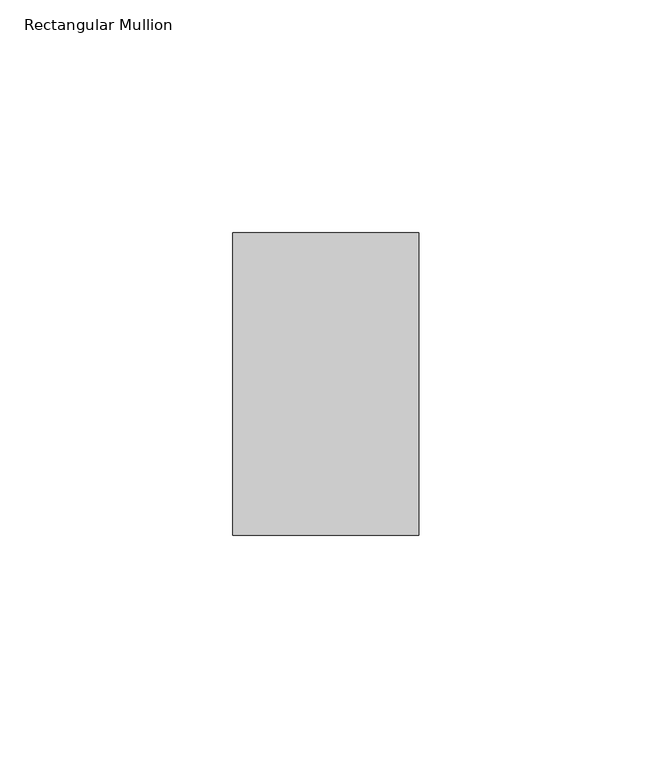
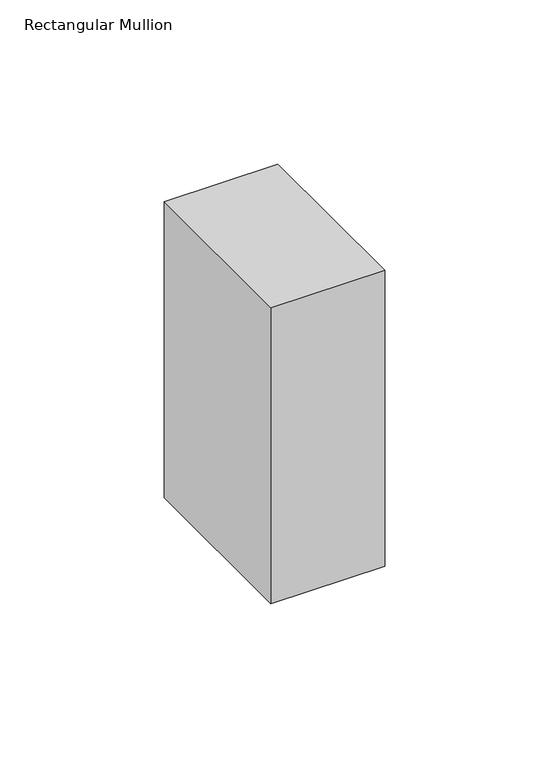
"""IFC4 building model written with IfcOpenShell, lengths in millimetres: member geometry, Rectangular Mullion : Batten_Timber_Modinex_Austratus_Grid_Fascia_40x65_AlaskanYellowCedar."""

import ifcopenshell
import ifcopenshell.guid

model = None  # the IFC model being written
_history = None  # IfcOwnerHistory: only IFC2X3 demands one
_inside = {}  # id of a spatial element -> (the spatial element, [elements in it])
_under = {}  # id of a project, library or spatial element -> (it, [spatial elements below it])
_declared = {}  # id of a project -> (the project, [libraries it declares])
_typed = {}  # id of a type object -> (the type object, [elements of that type])
_made_of = {}  # id of a material, layer set ... -> (it, [elements and type objects made of it])


def new_model(schema):
    """Start an empty IFC model of exactly this schema.

    Asked for "IFC4X3", IfcOpenShell would pick the latest addendum, in which some entities
    have other attributes; the version numbers below select the first issue.
    IFC2X3 requires an IfcOwnerHistory on every rooted entity: one is made here for all.
    """
    global model, _history
    if schema == "IFC4X3":
        model = ifcopenshell.file(schema_version=(4, 3, 0, 0))
    else:
        model = ifcopenshell.file(schema=schema)
    _inside.clear()
    _under.clear()
    _declared.clear()
    _typed.clear()
    _made_of.clear()
    _history = None
    if model.schema == "IFC2X3":
        org = make("IfcOrganization", Name="unknown")
        user = make(
            "IfcPersonAndOrganization",
            ThePerson=make("IfcPerson", FamilyName="unknown"),
            TheOrganization=org,
        )
        app = make(
            "IfcApplication",
            ApplicationDeveloper=org,
            Version="unknown",
            ApplicationFullName="unknown",
            ApplicationIdentifier="unknown",
        )
        _history = make(
            "IfcOwnerHistory",
            OwningUser=user,
            OwningApplication=app,
            ChangeAction="ADDED",
            CreationDate=0,
        )
    return model


def make(cls, **values):
    """One entity of the class cls with the attributes given. An attribute that is None is left unset."""
    return model.create_entity(
        cls, **{name: value for name, value in values.items() if value is not None}
    )


def rooted(cls, **values):
    """An entity with a GlobalId (a new one), such as an element, a storey or a relation."""
    return make(cls, GlobalId=ifcopenshell.guid.new(), OwnerHistory=_history, **values)


def si_unit(unit_type, name, prefix=None):
    """IfcSIUnit, for example si_unit("LENGTHUNIT", "METRE", prefix="MILLI")."""
    return make("IfcSIUnit", UnitType=unit_type, Prefix=prefix, Name=name)


def assignment(units):
    """IfcUnitAssignment: the units of a project."""
    return None if units is None else make("IfcUnitAssignment", Units=units)


def point(xyz):
    """IfcCartesianPoint."""
    return None if xyz is None else make("IfcCartesianPoint", Coordinates=xyz)


def direction(xyz):
    """IfcDirection."""
    return None if xyz is None else make("IfcDirection", DirectionRatios=xyz)


def frame(location, z_axis=None, x_axis=None):
    """IfcAxis2Placement3D, a coordinate frame: its origin and axes. An axis left out is left unset."""
    return make(
        "IfcAxis2Placement3D",
        Location=point(location),
        Axis=direction(z_axis),
        RefDirection=direction(x_axis),
    )


def origin():
    """The frame at (0, 0, 0) with its axes left unset."""
    return frame((0.0, 0.0, 0.0))


def place(relative_to, where):
    """IfcLocalPlacement: puts the frame where relative to a parent placement (None: the world)."""
    return make(
        "IfcLocalPlacement", PlacementRelTo=relative_to, RelativePlacement=where
    )


def context(
    kind, dimensions, precision=None, world=None, true_north=None, identifier=None
):
    """IfcGeometricRepresentationContext, for example the 3D "Model" context."""
    return make(
        "IfcGeometricRepresentationContext",
        ContextIdentifier=identifier,
        ContextType=kind,
        CoordinateSpaceDimension=dimensions,
        Precision=precision,
        WorldCoordinateSystem=world,
        TrueNorth=true_north,
    )


def project(units=None, contexts=None):
    """IfcProject with its units and contexts."""
    return rooted(
        "IfcProject",
        Name="project",
        RepresentationContexts=contexts,
        UnitsInContext=assignment(units),
    )


def spatial(cls, under=None, at=None, **own):
    """A site, building, storey or space (cls), placed at a placement, below another one or the project."""
    s = rooted(cls, ObjectPlacement=at, **own)
    if under is not None:
        _under.setdefault(under.id(), (under, []))[1].append(s)
    return s


def polyline(points):
    """IfcPolyline through the points."""
    return make("IfcPolyline", Points=[point(p) for p in points])


def outline(outer, holes=None, kind="AREA"):
    """IfcArbitraryClosedProfileDef: a profile drawn as a closed curve; with holes, ...WithVoids."""
    if holes is None:
        return make("IfcArbitraryClosedProfileDef", ProfileType=kind, OuterCurve=outer)
    return make(
        "IfcArbitraryProfileDefWithVoids",
        ProfileType=kind,
        OuterCurve=outer,
        InnerCurves=holes,
    )


def extrude(swept, where, along, depth):
    """IfcExtrudedAreaSolid: the profile swept, set in the frame where, extruded along a direction by depth."""
    return make(
        "IfcExtrudedAreaSolid",
        SweptArea=swept,
        Position=where,
        ExtrudedDirection=direction(along),
        Depth=depth,
    )


def shape(context_of_items, identifier, shape_type, items):
    """IfcShapeRepresentation: the items that make up one representation, for example the "Body"."""
    return make(
        "IfcShapeRepresentation",
        ContextOfItems=context_of_items,
        RepresentationIdentifier=identifier,
        RepresentationType=shape_type,
        Items=items,
    )


def source(mapping_origin, context_of_items, identifier, shape_type, items):
    """IfcRepresentationMap: a shape defined once, which mapped items show again and again."""
    return make(
        "IfcRepresentationMap",
        MappingOrigin=mapping_origin,
        MappedRepresentation=shape(context_of_items, identifier, shape_type, items),
    )


def transform(
    local_origin,
    x_axis=None,
    y_axis=None,
    z_axis=None,
    scale=None,
    scale2=None,
    scale3=None,
    uniform=True,
):
    """IfcCartesianTransformationOperator3D, or its non-uniform kind. x_axis, y_axis, z_axis: its Axis1, 2, 3."""
    if uniform:
        return make(
            "IfcCartesianTransformationOperator3D",
            Axis1=direction(x_axis),
            Axis2=direction(y_axis),
            LocalOrigin=point(local_origin),
            Scale=scale,
            Axis3=direction(z_axis),
        )
    return make(
        "IfcCartesianTransformationOperator3DnonUniform",
        Axis1=direction(x_axis),
        Axis2=direction(y_axis),
        LocalOrigin=point(local_origin),
        Scale=scale,
        Axis3=direction(z_axis),
        Scale2=scale2,
        Scale3=scale3,
    )


def mapped(mapping_source, mapping_target):
    """IfcMappedItem: shows the shape of a source again, moved by a transform."""
    return make(
        "IfcMappedItem", MappingSource=mapping_source, MappingTarget=mapping_target
    )


def made_of(thing, what):
    """Note that an element or type object is made of a material, layer set ...; save() writes the relation."""
    if what is not None:
        _made_of.setdefault(what.id(), (what, []))[1].append(thing)
    return thing


def element(
    cls,
    number,
    at=None,
    inside=None,
    cuts=None,
    type_object=None,
    material=None,
    context=None,
    identifier="Body",
    shape_type=None,
    held_by="IfcProductDefinitionShape",
    body=None,
    shapes=None,
    **own,
):
    """One element of the class cls, such as IfcWall. Its Tag is "e" and its number.

    at: its placement. inside: the storey or other place that contains it. cuts: it is an
    opening in that element (IfcRelVoidsElement). A single representation is given by context,
    identifier, shape_type and body (its items); several are given by shapes. held_by: the class
    of the entity that holds the representations. save() writes the other relations.
    """
    e = rooted(cls, Tag="e%d" % number, ObjectPlacement=at, **own)
    if body is not None:
        shapes = [shape(context, identifier, shape_type, body)]
    if shapes is not None:
        e.Representation = make(held_by, Representations=shapes)
    if inside is not None:
        _inside.setdefault(inside.id(), (inside, []))[1].append(e)
    if cuts is not None:
        rooted(
            "IfcRelVoidsElement", RelatingBuildingElement=cuts, RelatedOpeningElement=e
        )
    if type_object is not None:
        _typed.setdefault(type_object.id(), (type_object, []))[1].append(e)
    return made_of(e, material)


def aggregate(whole, parts):
    """IfcRelAggregates: a whole, such as a stair, and the parts it consists of."""
    return rooted("IfcRelAggregates", RelatingObject=whole, RelatedObjects=parts)


def save(model, path):
    """Write the relations noted so far, then the file.

    IfcRelAggregates (storeys below a building ...), IfcRelContainedInSpatialStructure (elements
    in a storey), IfcRelDefinesByType, IfcRelAssociatesMaterial and IfcRelDeclares: one each for
    every whole, place, type object, material and project.
    """
    for whole, parts in _under.values():
        aggregate(whole, parts)
    for where, things in _inside.values():
        rooted(
            "IfcRelContainedInSpatialStructure",
            RelatedElements=things,
            RelatingStructure=where,
        )
    for kind, things in _typed.values():
        rooted("IfcRelDefinesByType", RelatedObjects=things, RelatingType=kind)
    for what, things in _made_of.values():
        rooted("IfcRelAssociatesMaterial", RelatedObjects=things, RelatingMaterial=what)
    for by, libraries in _declared.values():
        rooted("IfcRelDeclares", RelatingContext=by, RelatedDefinitions=libraries)
    model.write(path)


def rectangular_mullion_d5b82d3d(model_context):
    return source(origin(), model_context, "Body", "SweptSolid", [
        extrude(outline(polyline([(0.0, 65.0), (0.0, 0.0), (-40.0, 0.0), (-40.0, 65.0), (0.0, 65.0)])), frame((0.0, 0.0, -110.0), z_axis=(0.0, 0.0, 1.0), x_axis=(1.0, 0.0, 0.0)), (0.0, 0.0, 1.0), 110.0),
    ])


if __name__ == "__main__":
    model = new_model("IFC4")
    model_context = context("Model", 3, world=origin())
    ifc_project = project(units=[si_unit("LENGTHUNIT", "METRE", prefix="MILLI")], contexts=[model_context])
    site = spatial("IfcSite", under=ifc_project)
    building = spatial("IfcBuilding", under=site)
    placement = place(None, origin())
    rectangular_mullion_shape = rectangular_mullion_d5b82d3d(model_context)
    element("IfcMember", 1, ObjectType="Rectangular Mullion : Batten_Timber_Modinex_Austratus_Grid_Fascia_40x65_AlaskanYellowCedar", at=placement, inside=building, context=model_context, shape_type="MappedRepresentation", body=[
        mapped(rectangular_mullion_shape, transform((0.0, 0.0, 0.0), x_axis=(1.0, 0.0, 0.0), y_axis=(0.0, 1.0, 0.0), z_axis=(0.0, 0.0, 1.0))),
    ])
    save(model, "model.ifc")
